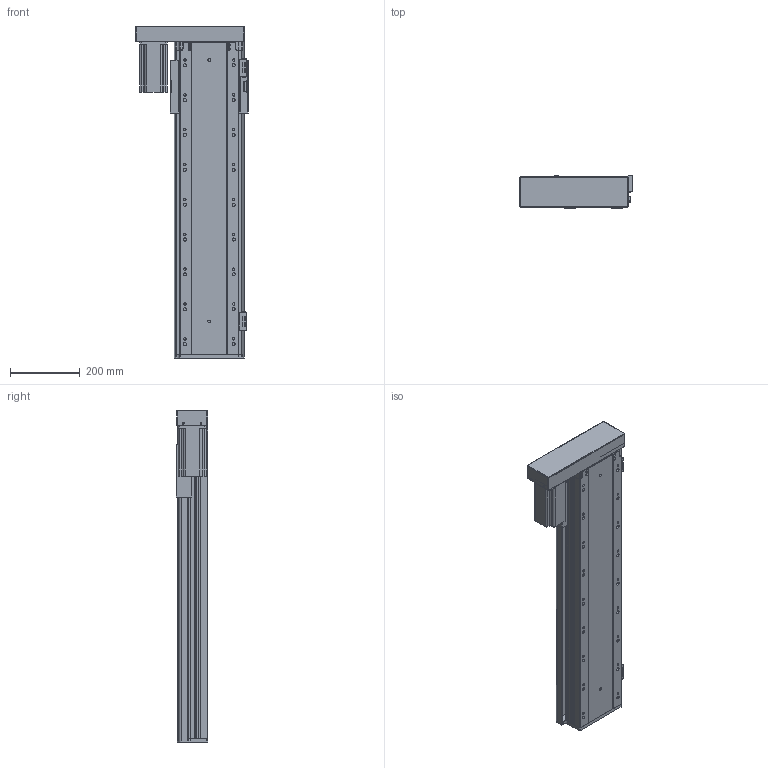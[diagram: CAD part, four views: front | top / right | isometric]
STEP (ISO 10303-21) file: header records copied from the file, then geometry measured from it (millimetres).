
FILE_DESCRIPTION (( 'STEP AP203' ), '1' );
FILE_NAME ('RY170FB-L2020-300-LK.SLDASM_650.step', '2021-02-23T03:02:40', ( '盈信电脑' ), ( '东莞市道滘镇水果街19号' ), 'SwSTEP 2.0', 'SolidWorks 2012', '' );
FILE_SCHEMA (( 'CONFIG_CONTROL_DESIGN' ));
Length unit declared in the file: millimetre
Products named in the file (16): RY140直线电机感应器674光电安装座; 覜茼ん674; RY170FB-300蛌殏奻裔-LK_650; RY170FB-綴裔啣; RY170FB-左右折电机安装板750W; RY170FB-酘衵殏萇儂欶750W; RY170FB-L2020-300-LK.SLDASM_650; RY140FB-674嫖萇覜茼え; RY140-674嫖萇耀輸; RY170FB-转折电机端支撑座(7002); 滅袉蝶18-10; 怢湛750W萇儂ㄗ80遺ㄘ; RY170FB-铝滑块(25丝杆）; RY170FB-300蛌殏倰第菁釱-LK_650; 滅袉蝶18-28
Assembly tree (18 placements, depth 3):
  RY170FB-L2020-300-LK.SLDASM_650
    RY170FB-300蛌殏倰第菁釱-LK_650
    滅袉蝶18-28
    滅袉蝶18-10
    RY170FB-转折电机端支撑座(7002)
    怢湛750W萇儂ㄗ80遺ㄘ
    RY170FB-铝滑块(25丝杆）
    RY170FB-綴裔啣
    RY170FB-300蛌殏奻裔-LK_650
    RY140-674嫖萇耀輸
      覜茼ん674  x2
      RY140直线电机感应器674光电安装座
    RY140-674嫖萇耀輸
      覜茼ん674
      RY140直线电机感应器674光电安装座
    RY140FB-674嫖萇覜茼え
    RY170FB-左右折电机安装板750W
    RY170FB-酘衵殏萇儂欶750W
Bounding box: 323.95 x 90.5 x 952.7 mm (x, y, z)
Volume: 6303482.1 mm3; surface area: 1808242 mm2
Topology: 16 solids, 16 shells, 1617 faces, 4634 edges, 2950 vertices
Faces by surface type: cylinder 863, plane 594, cone 152, bspline 8
Entity records: 52223 total; most frequent: CARTESIAN_POINT 12824, ORIENTED_EDGE 8016, DIRECTION 7702, EDGE_CURVE 4008, AXIS2_PLACEMENT_3D 2810, VERTEX_POINT 2630, VECTOR 2082, LINE 2082
